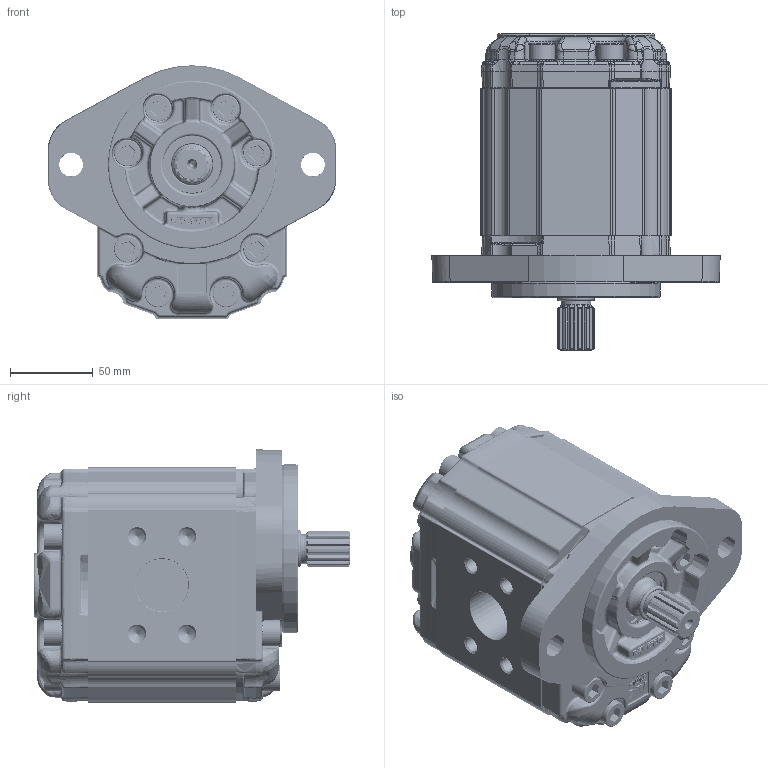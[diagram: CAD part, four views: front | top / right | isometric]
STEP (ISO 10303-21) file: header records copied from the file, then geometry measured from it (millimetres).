
FILE_DESCRIPTION(/* description */ ('Unknown'),/* implementation_level */ '2;1');
FILE_NAME(/* name */ 'X3U7932IOOA',/* time_stamp */ '2026-06-04T19:13:46+02:00',/* author */ ('Unknown'),/* organization */ ('Unknown'),/* preprocessor_version */ 'ST-DEVELOPER v16.7',/* originating_system */ 'Solid Edge',/* authorisation */ 'Unknown');
FILE_SCHEMA (('AUTOMOTIVE_DESIGN {1 0 10303 214 3 1 1}'));
Products named in the file (5): X3U7932IOOA; X3U32; 3I; X3OOH89; XU331-A
Assembly tree (4 placements, depth 2):
  X3U7932IOOA
    X3U32
    3I
    X3OOH89
    XU331-A
Bounding box: 174 x 191.2 x 153 mm (x, y, z)
Volume: 2126643.6 mm3; surface area: 228812.3 mm2
Topology: 4 solids, 5 shells, 4743 faces, 14417 edges, 8995 vertices
Faces by surface type: cylinder 1854, plane 1272, bspline 1254, torus 177, cone 160, sphere 26
Full cylindrical faces by diameter (mm): 2 x2, 9.149 x8, 10 x16, 10.35 x30, 10.5 x1, 14.314 x1, 14.315 x1, 15.8 x16, 16 x16, 18 x2, 24.98 x1, 25.5 x1, 26.8 x1, 29.425 x1, 30.687 x1, 31 x1, 32 x2, 33.304 x1, 34.7 x1, 35 x2, 35.2 x1, 37 x1, 101.6 x1
Entity records: 349023 total; most frequent: CARTESIAN_POINT 199936, ORIENTED_EDGE 27820, DIRECTION 19899, EDGE_CURVE 13910, VERTEX_POINT 8838, AXIS2_PLACEMENT_3D 7540, FACE_BOUND 5218, EDGE_LOOP 5209
